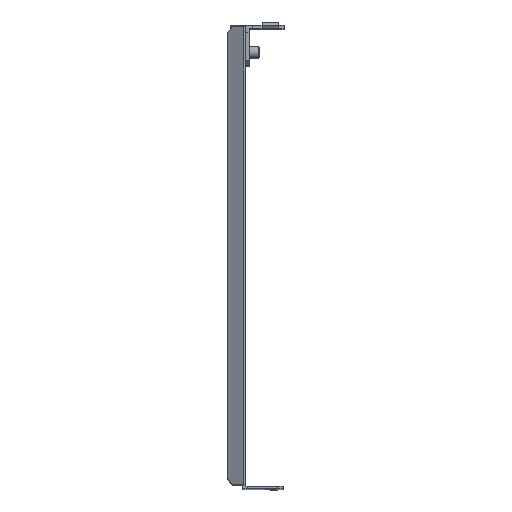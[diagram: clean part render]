
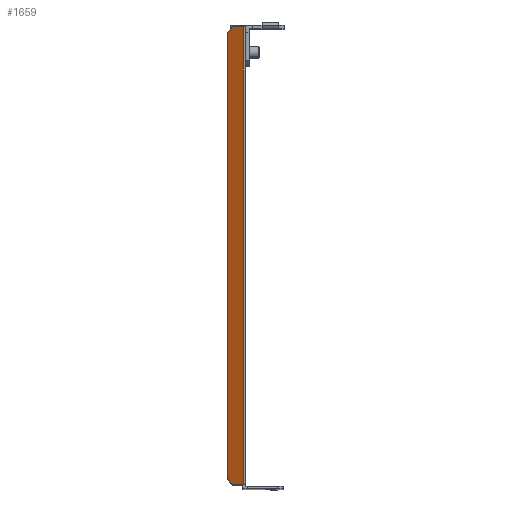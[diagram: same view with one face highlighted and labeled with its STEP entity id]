
A CAD part, top view. The second image highlights one B-rep face of the part: STEP entity #1659.
In plain terms, the highlighted planar face has unit normal (-0.5, 0, 0.866).
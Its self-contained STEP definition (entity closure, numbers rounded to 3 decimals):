
#478 = VECTOR ( 'NONE', #7014, 1000. ) ;
#536 = EDGE_CURVE ( 'NONE', #10426, #2331, #7135, .T. ) ;
#642 = CARTESIAN_POINT ( 'NONE',  ( -8.428, 0., 170.38 ) ) ;
#717 = CARTESIAN_POINT ( 'NONE',  ( -11.026, 3., 168.88 ) ) ;
#1146 = CARTESIAN_POINT ( 'NONE',  ( -75.134, 248., 131.868 ) ) ;
#1659 = ADVANCED_FACE ( 'NONE', ( #11642 ), #5097, .F. ) ;
#1883 = LINE ( 'NONE', #5694, #6796 ) ;
#2092 = VERTEX_POINT ( 'NONE', #11237 ) ;
#2155 = EDGE_CURVE ( 'NONE', #2474, #6629, #11305, .T. ) ;
#2181 = EDGE_CURVE ( 'NONE', #6583, #2474, #1883, .T. ) ;
#2301 = VECTOR ( 'NONE', #3068, 1000. ) ;
#2331 = VERTEX_POINT ( 'NONE', #5066 ) ;
#2411 = LINE ( 'NONE', #10724, #5701 ) ;
#2474 = VERTEX_POINT ( 'NONE', #7419 ) ;
#2569 = EDGE_LOOP ( 'NONE', ( #7715, #11549, #7631, #4061, #5775, #5281, #11705, #8762 ) ) ;
#3068 = DIRECTION ( 'NONE',  ( -0.866, 0., -0.5 ) ) ;
#3598 = LINE ( 'NONE', #9332, #5475 ) ;
#3745 = CARTESIAN_POINT ( 'NONE',  ( -5.25, 248., 172.215 ) ) ;
#4061 = ORIENTED_EDGE ( 'NONE', *, *, #7226, .T. ) ;
#4245 = EDGE_CURVE ( 'NONE', #5292, #8153, #10813, .T. ) ;
#4289 = CARTESIAN_POINT ( 'NONE',  ( -8.428, 0., 170.38 ) ) ;
#4565 = AXIS2_PLACEMENT_3D ( 'NONE', #7018, #7077, #8004 ) ;
#5066 = CARTESIAN_POINT ( 'NONE',  ( -2.768, 248., 173.648 ) ) ;
#5097 = PLANE ( 'NONE',  #4565 ) ;
#5114 = DIRECTION ( 'NONE',  ( -0.612, -0.707, -0.354 ) ) ;
#5138 = LINE ( 'NONE', #1146, #2301 ) ;
#5267 = CARTESIAN_POINT ( 'NONE',  ( -11.026, 0., 168.88 ) ) ;
#5281 = ORIENTED_EDGE ( 'NONE', *, *, #4245, .T. ) ;
#5292 = VERTEX_POINT ( 'NONE', #5798 ) ;
#5317 = VECTOR ( 'NONE', #8997, 1000. ) ;
#5353 = CARTESIAN_POINT ( 'NONE',  ( -2.768, 0., 173.648 ) ) ;
#5374 = EDGE_CURVE ( 'NONE', #2092, #5292, #2411, .T. ) ;
#5386 = DIRECTION ( 'NONE',  ( 0.612, -0.707, 0.354 ) ) ;
#5475 = VECTOR ( 'NONE', #11209, 1000. ) ;
#5694 = CARTESIAN_POINT ( 'NONE',  ( -75.134, 0., 131.868 ) ) ;
#5701 = VECTOR ( 'NONE', #5114, 1000. ) ;
#5775 = ORIENTED_EDGE ( 'NONE', *, *, #5374, .T. ) ;
#5793 = VECTOR ( 'NONE', #6564, 1000. ) ;
#5798 = CARTESIAN_POINT ( 'NONE',  ( -11.026, 245., 168.88 ) ) ;
#6325 = LINE ( 'NONE', #642, #8991 ) ;
#6564 = DIRECTION ( 'NONE',  ( 0.866, 0., 0.5 ) ) ;
#6583 = VERTEX_POINT ( 'NONE', #4289 ) ;
#6622 = EDGE_CURVE ( 'NONE', #6629, #2331, #3598, .T. ) ;
#6628 = CARTESIAN_POINT ( 'NONE',  ( -5.25, 0., 172.215 ) ) ;
#6629 = VERTEX_POINT ( 'NONE', #5353 ) ;
#6796 = VECTOR ( 'NONE', #9494, 1000. ) ;
#7014 = DIRECTION ( 'NONE',  ( 0., -1., 0. ) ) ;
#7018 = CARTESIAN_POINT ( 'NONE',  ( -75.134, 0., 131.868 ) ) ;
#7077 = DIRECTION ( 'NONE',  ( 0.5, 0., -0.866 ) ) ;
#7135 = LINE ( 'NONE', #10879, #5317 ) ;
#7226 = EDGE_CURVE ( 'NONE', #10426, #2092, #5138, .T. ) ;
#7419 = CARTESIAN_POINT ( 'NONE',  ( -5.25, 0., 172.215 ) ) ;
#7631 = ORIENTED_EDGE ( 'NONE', *, *, #536, .F. ) ;
#7715 = ORIENTED_EDGE ( 'NONE', *, *, #2155, .T. ) ;
#8004 = DIRECTION ( 'NONE',  ( 0., -1., 0. ) ) ;
#8153 = VERTEX_POINT ( 'NONE', #717 ) ;
#8762 = ORIENTED_EDGE ( 'NONE', *, *, #2181, .T. ) ;
#8991 = VECTOR ( 'NONE', #5386, 1000. ) ;
#8997 = DIRECTION ( 'NONE',  ( 0.866, 0., 0.5 ) ) ;
#9332 = CARTESIAN_POINT ( 'NONE',  ( -2.768, 0., 173.648 ) ) ;
#9494 = DIRECTION ( 'NONE',  ( 0.866, 0., 0.5 ) ) ;
#10426 = VERTEX_POINT ( 'NONE', #3745 ) ;
#10724 = CARTESIAN_POINT ( 'NONE',  ( -11.026, 245., 168.88 ) ) ;
#10813 = LINE ( 'NONE', #5267, #478 ) ;
#10879 = CARTESIAN_POINT ( 'NONE',  ( -75.134, 248., 131.868 ) ) ;
#11042 = EDGE_CURVE ( 'NONE', #8153, #6583, #6325, .T. ) ;
#11209 = DIRECTION ( 'NONE',  ( 0., 1., 0. ) ) ;
#11237 = CARTESIAN_POINT ( 'NONE',  ( -8.428, 248., 170.38 ) ) ;
#11305 = LINE ( 'NONE', #6628, #5793 ) ;
#11549 = ORIENTED_EDGE ( 'NONE', *, *, #6622, .T. ) ;
#11642 = FACE_OUTER_BOUND ( 'NONE', #2569, .T. ) ;
#11705 = ORIENTED_EDGE ( 'NONE', *, *, #11042, .T. ) ;
